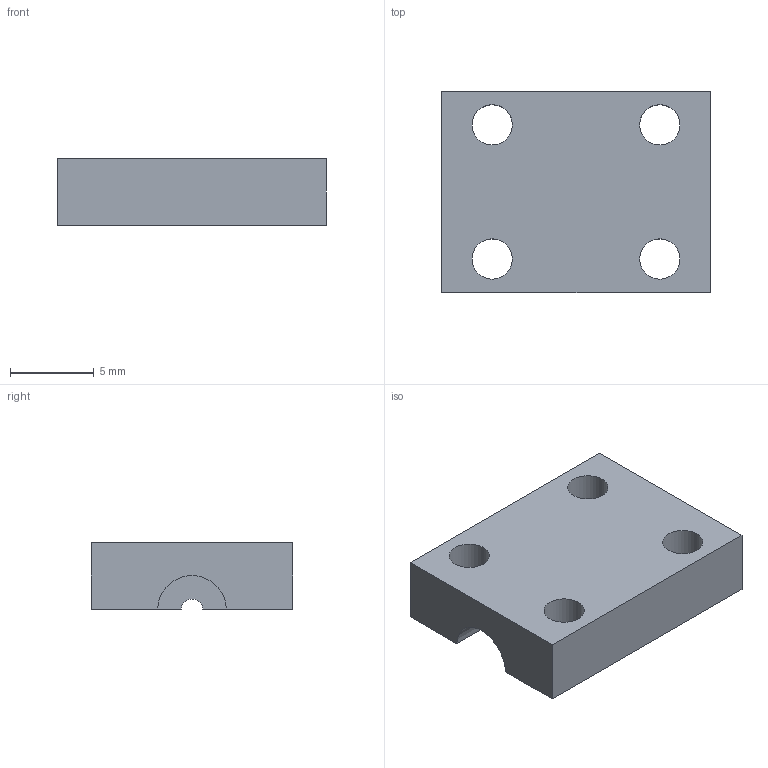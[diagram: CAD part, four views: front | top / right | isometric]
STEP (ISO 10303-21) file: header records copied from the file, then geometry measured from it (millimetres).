
FILE_DESCRIPTION(('Open CASCADE Model'),'2;1');
FILE_NAME('P14-yaw_upper_tube_cap.step', '', ('Noah Wilson'), (''), '', '', '');
FILE_SCHEMA(('AUTOMOTIVE_DESIGN { 1 0 10303 214 1 1 1 1 }'));
Length unit declared in the file: millimetre
Products named in the file (2): =>[0:1:1:2]; COMPOUND
Assembly tree (1 placements, depth 2):
  =>[0:1:1:2]
    COMPOUND
Bounding box: 16 x 12 x 3.95 mm (x, y, z)
Volume: 607.8 mm3; surface area: 716.4 mm2
Topology: 1 solids, 1 shells, 14 faces, 36 edges, 24 vertices
Faces by surface type: plane 8, cylinder 6
Full cylindrical faces by diameter (mm): 2.4 x4
Entity records: 912 total; most frequent: CARTESIAN_POINT 180, DIRECTION 120, ORIENTED_EDGE 72, PCURVE 72, DEFINITIONAL_REPRESENTATION 72, LINE 52, VECTOR 52, EDGE_CURVE 36
